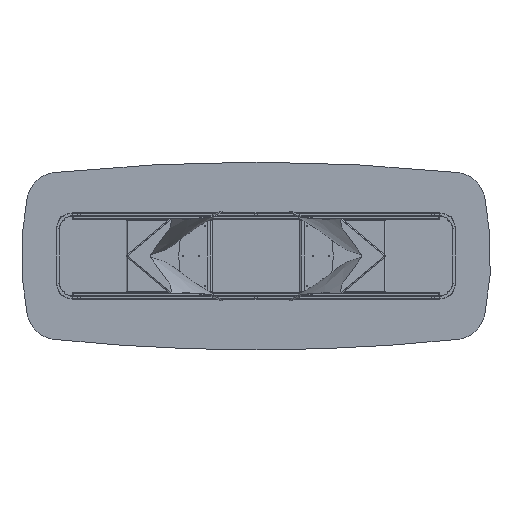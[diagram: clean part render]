
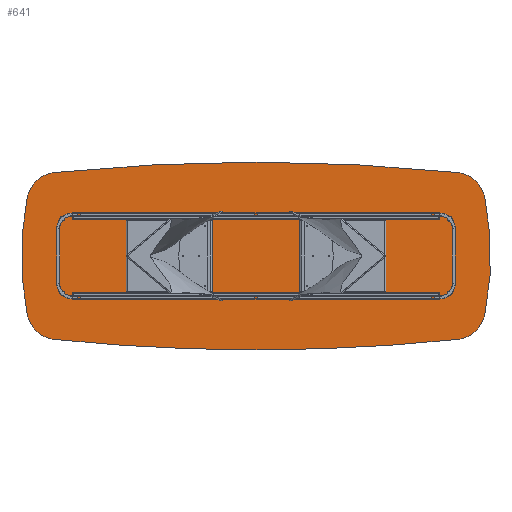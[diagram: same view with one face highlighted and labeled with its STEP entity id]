
A CAD part, front view. The second image highlights one B-rep face of the part: STEP entity #641.
In plain terms, the highlighted planar face has unit normal (0, -1, 0).
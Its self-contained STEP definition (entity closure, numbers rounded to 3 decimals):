
#36 = CIRCLE ( 'NONE', #8911, 12500. ) ;
#262 = DIRECTION ( 'NONE',  ( 0., 1., 0. ) ) ;
#335 = DIRECTION ( 'NONE',  ( 0., 0., 1. ) ) ;
#625 = AXIS2_PLACEMENT_3D ( 'NONE', #6162, #14864, #22399 ) ;
#641 = ADVANCED_FACE ( 'NONE', ( #9442 ), #16518, .F. ) ;
#1066 = VERTEX_POINT ( 'NONE', #16373 ) ;
#1117 = CIRCLE ( 'NONE', #12215, 200. ) ;
#1404 = DIRECTION ( 'NONE',  ( 0., 0., 1. ) ) ;
#1846 = VERTEX_POINT ( 'NONE', #16457 ) ;
#1958 = CARTESIAN_POINT ( 'NONE',  ( -1266.747, 0., 334.597 ) ) ;
#1967 = ORIENTED_EDGE ( 'NONE', *, *, #9716, .T. ) ;
#2024 = ORIENTED_EDGE ( 'NONE', *, *, #3904, .F. ) ;
#2084 = ORIENTED_EDGE ( 'NONE', *, *, #14337, .F. ) ;
#2344 = CIRCLE ( 'NONE', #5292, 1900. ) ;
#2623 = EDGE_CURVE ( 'NONE', #7601, #21210, #8959, .T. ) ;
#2707 = DIRECTION ( 'NONE',  ( 0., -1., 0. ) ) ;
#2992 = VERTEX_POINT ( 'NONE', #10964 ) ;
#3344 = CIRCLE ( 'NONE', #19277, 200. ) ;
#3631 = ORIENTED_EDGE ( 'NONE', *, *, #18755, .F. ) ;
#3904 = EDGE_CURVE ( 'NONE', #4961, #21210, #2344, .T. ) ;
#4098 = CARTESIAN_POINT ( 'NONE',  ( -1266.747, 0., -334.597 ) ) ;
#4172 = DIRECTION ( 'NONE',  ( 0., -1., 0. ) ) ;
#4372 = CARTESIAN_POINT ( 'NONE',  ( 1462.835, 0., 373.961 ) ) ;
#4598 = DIRECTION ( 'NONE',  ( 0., 0., 1. ) ) ;
#4961 = VERTEX_POINT ( 'NONE', #4372 ) ;
#5292 = AXIS2_PLACEMENT_3D ( 'NONE', #9451, #13166, #11195 ) ;
#5536 = ORIENTED_EDGE ( 'NONE', *, *, #2623, .T. ) ;
#5666 = CARTESIAN_POINT ( 'NONE',  ( 1266.747, 0., 334.597 ) ) ;
#6012 = DIRECTION ( 'NONE',  ( 0., 1., 0. ) ) ;
#6060 = ORIENTED_EDGE ( 'NONE', *, *, #16478, .T. ) ;
#6136 = DIRECTION ( 'NONE',  ( 0., 0., 1. ) ) ;
#6162 = CARTESIAN_POINT ( 'NONE',  ( 0., 0., -11900. ) ) ;
#6753 = DIRECTION ( 'NONE',  ( 0., 1., 0. ) ) ;
#6971 = CARTESIAN_POINT ( 'NONE',  ( -1287.344, 0., 533.533 ) ) ;
#7066 = VERTEX_POINT ( 'NONE', #6971 ) ;
#7387 = EDGE_CURVE ( 'NONE', #1846, #12966, #36, .T. ) ;
#7601 = VERTEX_POINT ( 'NONE', #8576 ) ;
#7755 = CARTESIAN_POINT ( 'NONE',  ( 400., 0., 0. ) ) ;
#8028 = CARTESIAN_POINT ( 'NONE',  ( 1462.835, 0., -373.961 ) ) ;
#8048 = CARTESIAN_POINT ( 'NONE',  ( -200., 0., 5950. ) ) ;
#8576 = CARTESIAN_POINT ( 'NONE',  ( 1287.344, 0., -533.533 ) ) ;
#8911 = AXIS2_PLACEMENT_3D ( 'NONE', #16361, #262, #14387 ) ;
#8959 = CIRCLE ( 'NONE', #13030, 200. ) ;
#9434 = DIRECTION ( 'NONE',  ( 0., 0., 1. ) ) ;
#9442 = FACE_OUTER_BOUND ( 'NONE', #11364, .T. ) ;
#9451 = CARTESIAN_POINT ( 'NONE',  ( -400., 0., 0. ) ) ;
#9486 = ORIENTED_EDGE ( 'NONE', *, *, #21991, .F. ) ;
#9716 = EDGE_CURVE ( 'NONE', #4961, #2992, #1117, .T. ) ;
#10964 = CARTESIAN_POINT ( 'NONE',  ( 1287.344, 0., 533.533 ) ) ;
#11195 = DIRECTION ( 'NONE',  ( 0., 0., 1. ) ) ;
#11283 = CARTESIAN_POINT ( 'NONE',  ( -1462.835, 0., -373.961 ) ) ;
#11364 = EDGE_LOOP ( 'NONE', ( #2084, #11991, #9486, #6060, #17181, #3631, #5536, #2024, #1967 ) ) ;
#11729 = CIRCLE ( 'NONE', #625, 12500. ) ;
#11961 = DIRECTION ( 'NONE',  ( 0., 1., 0. ) ) ;
#11991 = ORIENTED_EDGE ( 'NONE', *, *, #13088, .T. ) ;
#12215 = AXIS2_PLACEMENT_3D ( 'NONE', #5666, #4172, #6136 ) ;
#12459 = AXIS2_PLACEMENT_3D ( 'NONE', #8048, #6753, #13375 ) ;
#12966 = VERTEX_POINT ( 'NONE', #16863 ) ;
#13030 = AXIS2_PLACEMENT_3D ( 'NONE', #22223, #20488, #4598 ) ;
#13088 = EDGE_CURVE ( 'NONE', #7066, #1066, #21677, .T. ) ;
#13101 = DIRECTION ( 'NONE',  ( 0., 0., 1. ) ) ;
#13166 = DIRECTION ( 'NONE',  ( 0., 1., 0. ) ) ;
#13262 = CARTESIAN_POINT ( 'NONE',  ( 0., 0., 11900. ) ) ;
#13375 = DIRECTION ( 'NONE',  ( 0., 0., 1. ) ) ;
#13570 = AXIS2_PLACEMENT_3D ( 'NONE', #7755, #6012, #13101 ) ;
#14007 = AXIS2_PLACEMENT_3D ( 'NONE', #13262, #11961, #1404 ) ;
#14337 = EDGE_CURVE ( 'NONE', #7066, #2992, #11729, .T. ) ;
#14387 = DIRECTION ( 'NONE',  ( 0., 0., 1. ) ) ;
#14465 = DIRECTION ( 'NONE',  ( 0., -1., 0. ) ) ;
#14864 = DIRECTION ( 'NONE',  ( 0., 1., 0. ) ) ;
#15629 = VERTEX_POINT ( 'NONE', #11283 ) ;
#16361 = CARTESIAN_POINT ( 'NONE',  ( 0., 0., 11900. ) ) ;
#16373 = CARTESIAN_POINT ( 'NONE',  ( -1462.835, 0., 373.961 ) ) ;
#16457 = CARTESIAN_POINT ( 'NONE',  ( 0., 0., -600. ) ) ;
#16478 = EDGE_CURVE ( 'NONE', #15629, #12966, #3344, .T. ) ;
#16518 = PLANE ( 'NONE',  #12459 ) ;
#16863 = CARTESIAN_POINT ( 'NONE',  ( -1287.344, 0., -533.533 ) ) ;
#17181 = ORIENTED_EDGE ( 'NONE', *, *, #7387, .F. ) ;
#17621 = AXIS2_PLACEMENT_3D ( 'NONE', #1958, #14465, #335 ) ;
#18755 = EDGE_CURVE ( 'NONE', #7601, #1846, #22547, .T. ) ;
#19277 = AXIS2_PLACEMENT_3D ( 'NONE', #4098, #2707, #9434 ) ;
#20488 = DIRECTION ( 'NONE',  ( 0., -1., 0. ) ) ;
#21210 = VERTEX_POINT ( 'NONE', #8028 ) ;
#21677 = CIRCLE ( 'NONE', #17621, 200. ) ;
#21991 = EDGE_CURVE ( 'NONE', #15629, #1066, #22102, .T. ) ;
#22102 = CIRCLE ( 'NONE', #13570, 1900. ) ;
#22223 = CARTESIAN_POINT ( 'NONE',  ( 1266.747, 0., -334.597 ) ) ;
#22399 = DIRECTION ( 'NONE',  ( 0., 0., 1. ) ) ;
#22547 = CIRCLE ( 'NONE', #14007, 12500. ) ;
